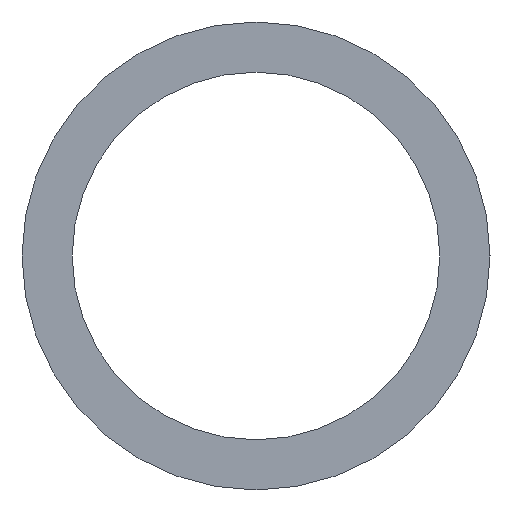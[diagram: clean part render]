
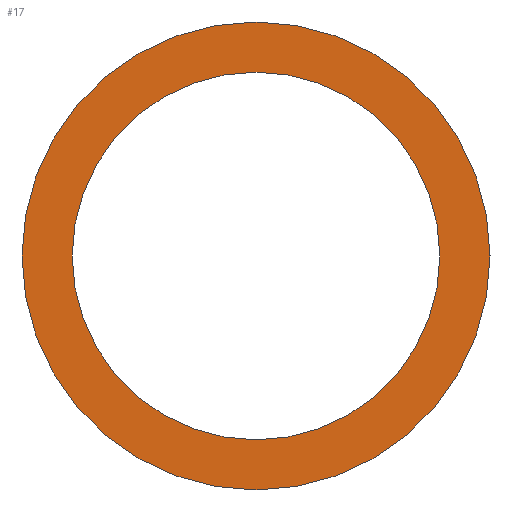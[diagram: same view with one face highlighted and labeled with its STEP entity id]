
A CAD part, left-side view. The second image highlights one B-rep face of the part: STEP entity #17.
In plain terms, the highlighted planar face has unit normal (-1, 0, 0).
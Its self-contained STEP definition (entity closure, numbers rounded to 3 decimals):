
#2 = CARTESIAN_POINT ( 'NONE',  ( -57., 0., -5.5 ) ) ;
#4 = AXIS2_PLACEMENT_3D ( 'NONE', #116, #105, #32 ) ;
#6 = CIRCLE ( 'NONE', #4, 5.5 ) ;
#9 = VERTEX_POINT ( 'NONE', #2 ) ;
#13 = DIRECTION ( 'NONE',  ( 0., 0., -1. ) ) ;
#17 = ADVANCED_FACE ( 'NONE', ( #52, #50 ), #108, .F. ) ;
#31 = VERTEX_POINT ( 'NONE', #58 ) ;
#32 = DIRECTION ( 'NONE',  ( 0., 0., -1. ) ) ;
#34 = EDGE_LOOP ( 'NONE', ( #62 ) ) ;
#37 = CIRCLE ( 'NONE', #45, 7. ) ;
#41 = CARTESIAN_POINT ( 'NONE',  ( -57., 0., 0. ) ) ;
#45 = AXIS2_PLACEMENT_3D ( 'NONE', #47, #83, #84 ) ;
#47 = CARTESIAN_POINT ( 'NONE',  ( -57., 0., 0. ) ) ;
#50 = FACE_BOUND ( 'NONE', #34, .T. ) ;
#52 = FACE_OUTER_BOUND ( 'NONE', #71, .T. ) ;
#58 = CARTESIAN_POINT ( 'NONE',  ( -57., 0., -7. ) ) ;
#62 = ORIENTED_EDGE ( 'NONE', *, *, #80, .T. ) ;
#71 = EDGE_LOOP ( 'NONE', ( #72 ) ) ;
#72 = ORIENTED_EDGE ( 'NONE', *, *, #113, .F. ) ;
#80 = EDGE_CURVE ( 'NONE', #9, #9, #6, .T. ) ;
#83 = DIRECTION ( 'NONE',  ( 1., 0., 0. ) ) ;
#84 = DIRECTION ( 'NONE',  ( 0., 0., -1. ) ) ;
#86 = DIRECTION ( 'NONE',  ( 1., 0., 0. ) ) ;
#96 = AXIS2_PLACEMENT_3D ( 'NONE', #41, #86, #13 ) ;
#105 = DIRECTION ( 'NONE',  ( 1., 0., 0. ) ) ;
#108 = PLANE ( 'NONE',  #96 ) ;
#113 = EDGE_CURVE ( 'NONE', #31, #31, #37, .T. ) ;
#116 = CARTESIAN_POINT ( 'NONE',  ( -57., 0., 0. ) ) ;
